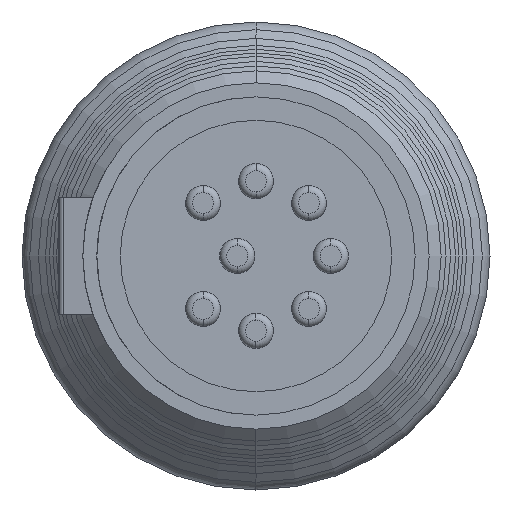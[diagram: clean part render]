
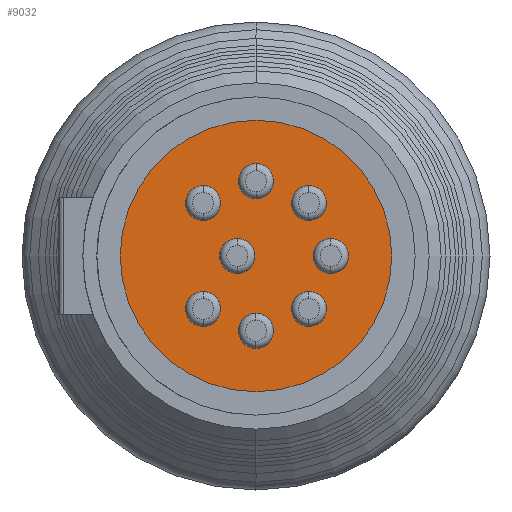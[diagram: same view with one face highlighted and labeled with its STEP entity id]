
A CAD part, left-side view. The second image highlights one B-rep face of the part: STEP entity #9032.
In plain terms, the highlighted planar face has unit normal (-1, 0, 0).
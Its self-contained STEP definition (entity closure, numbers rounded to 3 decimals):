
#442 = ORIENTED_EDGE ( 'NONE', *, *, #6295, .T. ) ;
#456 = AXIS2_PLACEMENT_3D ( 'NONE', #3729, #613, #6434 ) ;
#613 = DIRECTION ( 'NONE',  ( -1., 0., 0. ) ) ;
#634 = CARTESIAN_POINT ( 'NONE',  ( -28.5, 0., 0. ) ) ;
#1089 = EDGE_LOOP ( 'NONE', ( #442, #12365 ) ) ;
#1547 = AXIS2_PLACEMENT_3D ( 'NONE', #634, #7723, #2707 ) ;
#2707 = DIRECTION ( 'NONE',  ( 0., 0., 1. ) ) ;
#3143 = AXIS2_PLACEMENT_3D ( 'NONE', #8821, #7738, #11658 ) ;
#3729 = CARTESIAN_POINT ( 'NONE',  ( -28.5, 0., 0. ) ) ;
#5176 = VERTEX_POINT ( 'NONE', #10643 ) ;
#5644 = CARTESIAN_POINT ( 'NONE',  ( -28.5, 0., 5.8 ) ) ;
#6011 = CIRCLE ( 'NONE', #456, 5.8 ) ;
#6295 = EDGE_CURVE ( 'NONE', #12144, #5176, #6011, .T. ) ;
#6434 = DIRECTION ( 'NONE',  ( 0., 0., 1. ) ) ;
#7108 = EDGE_CURVE ( 'NONE', #5176, #12144, #9722, .T. ) ;
#7723 = DIRECTION ( 'NONE',  ( -1., 0., 0. ) ) ;
#7738 = DIRECTION ( 'NONE',  ( -1., 0., 0. ) ) ;
#8821 = CARTESIAN_POINT ( 'NONE',  ( -28.5, 0., 0. ) ) ;
#9032 = ADVANCED_FACE ( 'NONE', ( #9474 ), #9720, .T. ) ;
#9474 = FACE_OUTER_BOUND ( 'NONE', #1089, .T. ) ;
#9720 = PLANE ( 'NONE',  #1547 ) ;
#9722 = CIRCLE ( 'NONE', #3143, 5.8 ) ;
#10643 = CARTESIAN_POINT ( 'NONE',  ( -28.5, 0., -5.8 ) ) ;
#11658 = DIRECTION ( 'NONE',  ( 0., 0., 1. ) ) ;
#12144 = VERTEX_POINT ( 'NONE', #5644 ) ;
#12365 = ORIENTED_EDGE ( 'NONE', *, *, #7108, .T. ) ;
